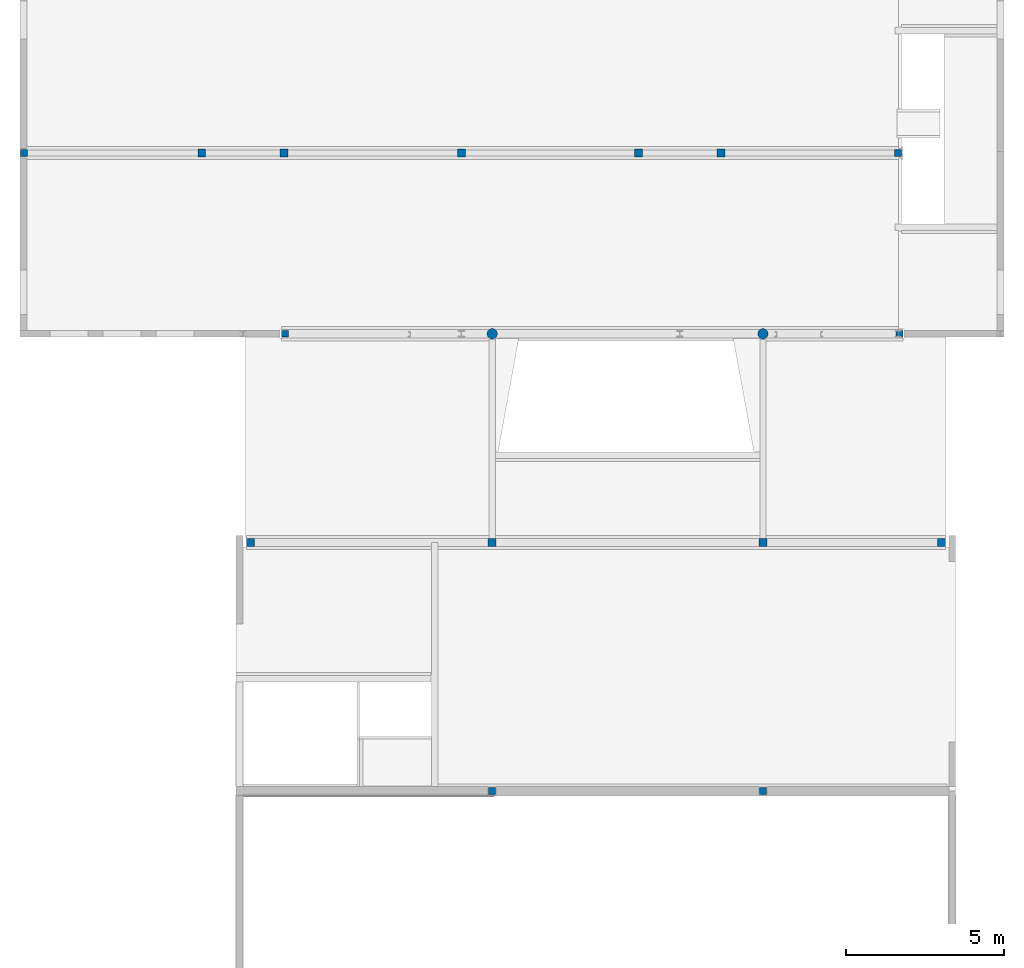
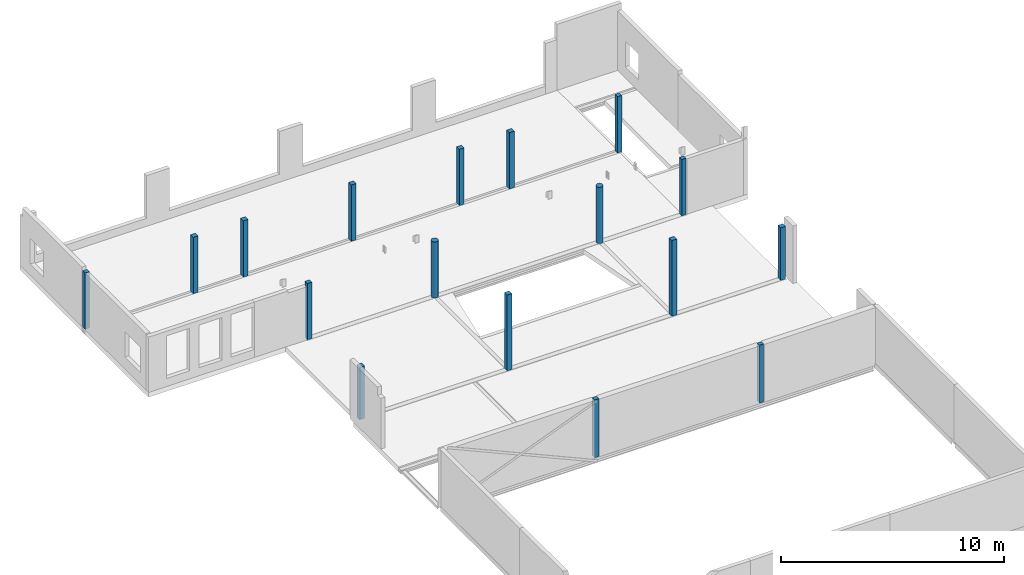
# One storey, part 1 of 6: 17 columns.
"""IFC2X3 building model written with IfcOpenShell, lengths in millimetres."""

import ifcopenshell
import ifcopenshell.guid

model = None  # the IFC model being written
_history = None  # IfcOwnerHistory: only IFC2X3 demands one
_inside = {}  # id of a spatial element -> (the spatial element, [elements in it])
_under = {}  # id of a project, library or spatial element -> (it, [spatial elements below it])
_declared = {}  # id of a project -> (the project, [libraries it declares])
_typed = {}  # id of a type object -> (the type object, [elements of that type])
_made_of = {}  # id of a material, layer set ... -> (it, [elements and type objects made of it])


def new_model(schema):
    """Start an empty IFC model of exactly this schema.

    Asked for "IFC4X3", IfcOpenShell would pick the latest addendum, in which some entities
    have other attributes; the version numbers below select the first issue.
    IFC2X3 requires an IfcOwnerHistory on every rooted entity: one is made here for all.
    """
    global model, _history
    if schema == "IFC4X3":
        model = ifcopenshell.file(schema_version=(4, 3, 0, 0))
    else:
        model = ifcopenshell.file(schema=schema)
    _inside.clear()
    _under.clear()
    _declared.clear()
    _typed.clear()
    _made_of.clear()
    _history = None
    if model.schema == "IFC2X3":
        org = make("IfcOrganization", Name="unknown")
        user = make(
            "IfcPersonAndOrganization",
            ThePerson=make("IfcPerson", FamilyName="unknown"),
            TheOrganization=org,
        )
        app = make(
            "IfcApplication",
            ApplicationDeveloper=org,
            Version="unknown",
            ApplicationFullName="unknown",
            ApplicationIdentifier="unknown",
        )
        _history = make(
            "IfcOwnerHistory",
            OwningUser=user,
            OwningApplication=app,
            ChangeAction="ADDED",
            CreationDate=0,
        )
    return model


def make(cls, **values):
    """One entity of the class cls with the attributes given. An attribute that is None is left unset."""
    return model.create_entity(
        cls, **{name: value for name, value in values.items() if value is not None}
    )


def entity(cls, *values):
    """Any entity or typed value of the class cls, its attributes in the order of the schema. None: left unset."""
    e = model.create_entity(cls)
    for i, value in enumerate(values):
        if value is not None:
            e[i] = value
    return e


def rooted(cls, **values):
    """An entity with a GlobalId (a new one), such as an element, a storey or a relation."""
    return make(cls, GlobalId=ifcopenshell.guid.new(), OwnerHistory=_history, **values)


def si_unit(unit_type, name, prefix=None):
    """IfcSIUnit, for example si_unit("LENGTHUNIT", "METRE", prefix="MILLI")."""
    return make("IfcSIUnit", UnitType=unit_type, Prefix=prefix, Name=name)


def converted_unit(unit_type, name, factor, base, dimensions=None, offset=None):
    """IfcConversionBasedUnit, such as the inch: factor (a typed value) times the base unit."""
    return make(
        "IfcConversionBasedUnit"
        if offset is None
        else "IfcConversionBasedUnitWithOffset",
        ConversionOffset=offset,
        Dimensions=None
        if dimensions is None
        else entity("IfcDimensionalExponents", *dimensions),
        UnitType=unit_type,
        Name=name,
        ConversionFactor=make(
            "IfcMeasureWithUnit", ValueComponent=factor, UnitComponent=base
        ),
    )


def derived_unit(unit_type, elements):
    """IfcDerivedUnit: a product of units, each with its exponent."""
    return make(
        "IfcDerivedUnit",
        Elements=[
            make("IfcDerivedUnitElement", Unit=unit, Exponent=power)
            for unit, power in elements
        ],
        UnitType=unit_type,
    )


def assignment(units):
    """IfcUnitAssignment: the units of a project."""
    return None if units is None else make("IfcUnitAssignment", Units=units)


def point(xyz):
    """IfcCartesianPoint."""
    return None if xyz is None else make("IfcCartesianPoint", Coordinates=xyz)


def direction(xyz):
    """IfcDirection."""
    return None if xyz is None else make("IfcDirection", DirectionRatios=xyz)


def frame(location, z_axis=None, x_axis=None):
    """IfcAxis2Placement3D, a coordinate frame: its origin and axes. An axis left out is left unset."""
    return make(
        "IfcAxis2Placement3D",
        Location=point(location),
        Axis=direction(z_axis),
        RefDirection=direction(x_axis),
    )


def frame_2d(location, x_axis=None):
    """IfcAxis2Placement2D, a coordinate frame in the plane: its origin and x axis."""
    return make(
        "IfcAxis2Placement2D", Location=point(location), RefDirection=direction(x_axis)
    )


def origin():
    """The frame at (0, 0, 0) with its axes left unset."""
    return frame((0.0, 0.0, 0.0))


def origin_2d_with_axis():
    """The frame at (0, 0) in the plane with the x axis (1, 0) written out."""
    return frame_2d((0.0, 0.0), x_axis=(1.0, 0.0))


def place(relative_to, where):
    """IfcLocalPlacement: puts the frame where relative to a parent placement (None: the world)."""
    return make(
        "IfcLocalPlacement", PlacementRelTo=relative_to, RelativePlacement=where
    )


def context(
    kind, dimensions, precision=None, world=None, true_north=None, identifier=None
):
    """IfcGeometricRepresentationContext, for example the 3D "Model" context."""
    return make(
        "IfcGeometricRepresentationContext",
        ContextIdentifier=identifier,
        ContextType=kind,
        CoordinateSpaceDimension=dimensions,
        Precision=precision,
        WorldCoordinateSystem=world,
        TrueNorth=true_north,
    )


def subcontext(parent, identifier, kind, view, scale=None):
    """IfcGeometricRepresentationSubContext, for example "Body" below "Model"."""
    return make(
        "IfcGeometricRepresentationSubContext",
        ContextIdentifier=identifier,
        ContextType=kind,
        ParentContext=parent,
        TargetScale=scale,
        TargetView=view,
    )


def project(units=None, contexts=None):
    """IfcProject with its units and contexts."""
    return rooted(
        "IfcProject",
        Name="project",
        RepresentationContexts=contexts,
        UnitsInContext=assignment(units),
    )


def spatial(cls, under=None, at=None, **own):
    """A site, building, storey or space (cls), placed at a placement, below another one or the project."""
    s = rooted(cls, ObjectPlacement=at, **own)
    if under is not None:
        _under.setdefault(under.id(), (under, []))[1].append(s)
    return s


def polyline(points):
    """IfcPolyline through the points."""
    return make("IfcPolyline", Points=[point(p) for p in points])


def profile(cls, at=None, kind="AREA", **sizes):
    """A parametric profile (cls). Its sizes go by their IFC names, for example OverallWidth=200.0."""
    return make(cls, ProfileType=kind, Position=at, **sizes)


def rectangle(**sizes):
    """IfcRectangleProfileDef."""
    return profile("IfcRectangleProfileDef", **sizes)


def circle(**sizes):
    """IfcCircleProfileDef."""
    return profile("IfcCircleProfileDef", **sizes)


def hollow_circle(**sizes):
    """IfcCircleHollowProfileDef."""
    return profile("IfcCircleHollowProfileDef", **sizes)


def outline(outer, holes=None, kind="AREA"):
    """IfcArbitraryClosedProfileDef: a profile drawn as a closed curve; with holes, ...WithVoids."""
    if holes is None:
        return make("IfcArbitraryClosedProfileDef", ProfileType=kind, OuterCurve=outer)
    return make(
        "IfcArbitraryProfileDefWithVoids",
        ProfileType=kind,
        OuterCurve=outer,
        InnerCurves=holes,
    )


def extrude(swept, where, along, depth):
    """IfcExtrudedAreaSolid: the profile swept, set in the frame where, extruded along a direction by depth."""
    return make(
        "IfcExtrudedAreaSolid",
        SweptArea=swept,
        Position=where,
        ExtrudedDirection=direction(along),
        Depth=depth,
    )


def shape(context_of_items, identifier, shape_type, items):
    """IfcShapeRepresentation: the items that make up one representation, for example the "Body"."""
    return make(
        "IfcShapeRepresentation",
        ContextOfItems=context_of_items,
        RepresentationIdentifier=identifier,
        RepresentationType=shape_type,
        Items=items,
    )


def source(mapping_origin, context_of_items, identifier, shape_type, items):
    """IfcRepresentationMap: a shape defined once, which mapped items show again and again."""
    return make(
        "IfcRepresentationMap",
        MappingOrigin=mapping_origin,
        MappedRepresentation=shape(context_of_items, identifier, shape_type, items),
    )


def transform(
    local_origin,
    x_axis=None,
    y_axis=None,
    z_axis=None,
    scale=None,
    scale2=None,
    scale3=None,
    uniform=True,
):
    """IfcCartesianTransformationOperator3D, or its non-uniform kind. x_axis, y_axis, z_axis: its Axis1, 2, 3."""
    if uniform:
        return make(
            "IfcCartesianTransformationOperator3D",
            Axis1=direction(x_axis),
            Axis2=direction(y_axis),
            LocalOrigin=point(local_origin),
            Scale=scale,
            Axis3=direction(z_axis),
        )
    return make(
        "IfcCartesianTransformationOperator3DnonUniform",
        Axis1=direction(x_axis),
        Axis2=direction(y_axis),
        LocalOrigin=point(local_origin),
        Scale=scale,
        Axis3=direction(z_axis),
        Scale2=scale2,
        Scale3=scale3,
    )


def mapped(mapping_source, mapping_target):
    """IfcMappedItem: shows the shape of a source again, moved by a transform."""
    return make(
        "IfcMappedItem", MappingSource=mapping_source, MappingTarget=mapping_target
    )


def material(Name=None, Category=None):
    """IfcMaterial."""
    return make("IfcMaterial", Name=Name, Category=Category)


def material_list(materials):
    """IfcMaterialList."""
    return make("IfcMaterialList", Materials=materials)


def made_of(thing, what):
    """Note that an element or type object is made of a material, layer set ...; save() writes the relation."""
    if what is not None:
        _made_of.setdefault(what.id(), (what, []))[1].append(thing)
    return thing


def type_object(cls, material=None, **own):
    """A type object (cls), such as IfcWallType, which elements share."""
    return made_of(rooted(cls, **own), material)


def type_shapes(of_type, sources):
    """Give a type object the sources (RepresentationMaps) that its elements show as mapped items."""
    of_type.RepresentationMaps = sources


def element(
    cls,
    number,
    at=None,
    inside=None,
    cuts=None,
    type_object=None,
    material=None,
    context=None,
    identifier="Body",
    shape_type=None,
    held_by="IfcProductDefinitionShape",
    body=None,
    shapes=None,
    **own,
):
    """One element of the class cls, such as IfcWall. Its Tag is "e" and its number.

    at: its placement. inside: the storey or other place that contains it. cuts: it is an
    opening in that element (IfcRelVoidsElement). A single representation is given by context,
    identifier, shape_type and body (its items); several are given by shapes. held_by: the class
    of the entity that holds the representations. save() writes the other relations.
    """
    e = rooted(cls, Tag="e%d" % number, ObjectPlacement=at, **own)
    if body is not None:
        shapes = [shape(context, identifier, shape_type, body)]
    if shapes is not None:
        e.Representation = make(held_by, Representations=shapes)
    if inside is not None:
        _inside.setdefault(inside.id(), (inside, []))[1].append(e)
    if cuts is not None:
        rooted(
            "IfcRelVoidsElement", RelatingBuildingElement=cuts, RelatedOpeningElement=e
        )
    if type_object is not None:
        _typed.setdefault(type_object.id(), (type_object, []))[1].append(e)
    return made_of(e, material)


def aggregate(whole, parts):
    """IfcRelAggregates: a whole, such as a stair, and the parts it consists of."""
    return rooted("IfcRelAggregates", RelatingObject=whole, RelatedObjects=parts)


def save(model, path):
    """Write the relations noted so far, then the file.

    IfcRelAggregates (storeys below a building ...), IfcRelContainedInSpatialStructure (elements
    in a storey), IfcRelDefinesByType, IfcRelAssociatesMaterial and IfcRelDeclares: one each for
    every whole, place, type object, material and project.
    """
    for whole, parts in _under.values():
        aggregate(whole, parts)
    for where, things in _inside.values():
        rooted(
            "IfcRelContainedInSpatialStructure",
            RelatedElements=things,
            RelatingStructure=where,
        )
    for kind, things in _typed.values():
        rooted("IfcRelDefinesByType", RelatedObjects=things, RelatingType=kind)
    for what, things in _made_of.values():
        rooted("IfcRelAssociatesMaterial", RelatedObjects=things, RelatingMaterial=what)
    for by, libraries in _declared.values():
        rooted("IfcRelDeclares", RelatingContext=by, RelatedDefinitions=libraries)
    model.write(path)


model = new_model("IFC2X3")

# Units and contexts
model_context = context("Model", 3, precision=0.01, world=origin(), true_north=direction((6.123031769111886e-17, 1.0)))
body_context = subcontext(model_context, "Body", "Model", "MODEL_VIEW")
ifc_project = project(units=[si_unit("LENGTHUNIT", "METRE", prefix="MILLI"), si_unit("AREAUNIT", "SQUARE_METRE", prefix="MILLI"), si_unit("VOLUMEUNIT", "CUBIC_METRE"), converted_unit("PLANEANGLEUNIT", "DEGREE", entity("IfcPlaneAngleMeasure", 0.017453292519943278), si_unit("PLANEANGLEUNIT", "RADIAN"), dimensions=[0, 0, 0, 0, 0, 0, 0]), si_unit("MASSUNIT", "GRAM", prefix="KILO"), derived_unit("MASSDENSITYUNIT", [(si_unit("MASSUNIT", "GRAM", prefix="KILO"), 1), (si_unit("LENGTHUNIT", "METRE"), -3)]), derived_unit("IONCONCENTRATIONUNIT", [(si_unit("MASSUNIT", "GRAM", prefix="KILO"), 1), (si_unit("LENGTHUNIT", "METRE"), -3)]), derived_unit("MOMENTOFINERTIAUNIT", [(si_unit("LENGTHUNIT", "METRE"), 4)]), si_unit("TIMEUNIT", "SECOND"), si_unit("FREQUENCYUNIT", "HERTZ"), si_unit("THERMODYNAMICTEMPERATUREUNIT", "DEGREE_CELSIUS"), derived_unit("THERMALTRANSMITTANCEUNIT", [(si_unit("MASSUNIT", "GRAM", prefix="KILO"), 1), (si_unit("THERMODYNAMICTEMPERATUREUNIT", "KELVIN"), -1), (si_unit("TIMEUNIT", "SECOND"), -3)]), derived_unit("THERMALCONDUCTANCEUNIT", [(si_unit("MASSUNIT", "GRAM", prefix="KILO"), 1), (si_unit("THERMODYNAMICTEMPERATUREUNIT", "KELVIN"), -1), (si_unit("TIMEUNIT", "SECOND"), -3), (si_unit("LENGTHUNIT", "METRE"), 1)]), derived_unit("VOLUMETRICFLOWRATEUNIT", [(si_unit("LENGTHUNIT", "METRE", prefix="DECI"), 3), (si_unit("TIMEUNIT", "SECOND"), -1)]), derived_unit("MASSFLOWRATEUNIT", [(si_unit("MASSUNIT", "GRAM", prefix="KILO"), 1), (si_unit("TIMEUNIT", "SECOND"), -1)]), derived_unit("ROTATIONALFREQUENCYUNIT", [(si_unit("TIMEUNIT", "SECOND"), -1)]), si_unit("ELECTRICCURRENTUNIT", "AMPERE"), si_unit("ELECTRICVOLTAGEUNIT", "VOLT"), si_unit("POWERUNIT", "WATT"), si_unit("FORCEUNIT", "NEWTON", prefix="KILO"), si_unit("ILLUMINANCEUNIT", "LUX"), si_unit("LUMINOUSFLUXUNIT", "LUMEN"), si_unit("LUMINOUSINTENSITYUNIT", "CANDELA"), si_unit("ENERGYUNIT", "JOULE"), derived_unit("USERDEFINED", [(si_unit("MASSUNIT", "GRAM", prefix="KILO"), -1), (si_unit("LENGTHUNIT", "METRE"), -2), (si_unit("TIMEUNIT", "SECOND"), 3), (si_unit("LUMINOUSFLUXUNIT", "LUMEN"), 1)]), derived_unit("USERDEFINED", [(si_unit("MASSUNIT", "GRAM", prefix="KILO"), 1), (si_unit("TIMEUNIT", "SECOND"), -3), (si_unit("LENGTHUNIT", "METRE"), 3), (si_unit("ELECTRICCURRENTUNIT", "AMPERE"), -2)]), derived_unit("SOUNDPOWERUNIT", [(si_unit("MASSUNIT", "GRAM", prefix="KILO"), 1), (si_unit("TIMEUNIT", "SECOND"), -3), (si_unit("LENGTHUNIT", "METRE"), 2)]), derived_unit("SOUNDPRESSUREUNIT", [(si_unit("MASSUNIT", "GRAM", prefix="KILO"), 1), (si_unit("LENGTHUNIT", "METRE"), -1), (si_unit("TIMEUNIT", "SECOND"), -2)]), derived_unit("LINEARVELOCITYUNIT", [(si_unit("LENGTHUNIT", "METRE"), 1), (si_unit("TIMEUNIT", "SECOND"), -1)]), si_unit("PRESSUREUNIT", "PASCAL"), derived_unit("USERDEFINED", [(si_unit("MASSUNIT", "GRAM", prefix="KILO"), 1), (si_unit("LENGTHUNIT", "METRE"), -2), (si_unit("TIMEUNIT", "SECOND"), -2)]), derived_unit("LINEARFORCEUNIT", [(si_unit("MASSUNIT", "GRAM", prefix="KILO"), 1), (si_unit("TIMEUNIT", "SECOND"), -2)]), derived_unit("PLANARFORCEUNIT", [(si_unit("MASSUNIT", "GRAM", prefix="KILO"), 1), (si_unit("LENGTHUNIT", "METRE"), -1), (si_unit("TIMEUNIT", "SECOND"), -2)]), derived_unit("SPECIFICHEATCAPACITYUNIT", [(si_unit("THERMODYNAMICTEMPERATUREUNIT", "KELVIN"), -1), (si_unit("LENGTHUNIT", "METRE"), 2), (si_unit("TIMEUNIT", "SECOND"), -2)]), derived_unit("HEATFLUXDENSITYUNIT", [(si_unit("MASSUNIT", "GRAM", prefix="KILO"), 1), (si_unit("TIMEUNIT", "SECOND"), -3)]), derived_unit("HEATINGVALUEUNIT", [(si_unit("LENGTHUNIT", "METRE"), 2), (si_unit("TIMEUNIT", "SECOND"), -2)]), derived_unit("VAPORPERMEABILITYUNIT", [(si_unit("LENGTHUNIT", "METRE"), -1), (si_unit("TIMEUNIT", "SECOND"), 1)]), derived_unit("DYNAMICVISCOSITYUNIT", [(si_unit("MASSUNIT", "GRAM", prefix="KILO"), 1), (si_unit("TIMEUNIT", "SECOND"), -1), (si_unit("LENGTHUNIT", "METRE"), -1)]), derived_unit("THERMALEXPANSIONCOEFFICIENTUNIT", [(si_unit("THERMODYNAMICTEMPERATUREUNIT", "KELVIN"), -1)]), derived_unit("MODULUSOFELASTICITYUNIT", [(si_unit("MASSUNIT", "GRAM", prefix="KILO"), 1), (si_unit("LENGTHUNIT", "METRE"), -1), (si_unit("TIMEUNIT", "SECOND"), -2)]), derived_unit("ISOTHERMALMOISTURECAPACITYUNIT", [(si_unit("MASSUNIT", "GRAM", prefix="KILO"), -1), (si_unit("LENGTHUNIT", "METRE"), 3)]), derived_unit("MOISTUREDIFFUSIVITYUNIT", [(si_unit("TIMEUNIT", "SECOND"), -1), (si_unit("LENGTHUNIT", "METRE"), 2)]), derived_unit("MASSPERLENGTHUNIT", [(si_unit("MASSUNIT", "GRAM", prefix="KILO"), 1), (si_unit("LENGTHUNIT", "METRE"), -1)]), derived_unit("THERMALRESISTANCEUNIT", [(si_unit("MASSUNIT", "GRAM", prefix="KILO"), -1), (si_unit("TIMEUNIT", "SECOND"), 3), (si_unit("THERMODYNAMICTEMPERATUREUNIT", "KELVIN"), 1)]), derived_unit("ACCELERATIONUNIT", [(si_unit("LENGTHUNIT", "METRE"), 1), (si_unit("TIMEUNIT", "SECOND"), -2)]), derived_unit("ANGULARVELOCITYUNIT", [(si_unit("TIMEUNIT", "SECOND"), -1), (si_unit("PLANEANGLEUNIT", "RADIAN"), 1)]), derived_unit("LINEARSTIFFNESSUNIT", [(si_unit("MASSUNIT", "GRAM", prefix="KILO"), 1), (si_unit("TIMEUNIT", "SECOND"), -2)]), derived_unit("WARPINGCONSTANTUNIT", [(si_unit("LENGTHUNIT", "METRE"), 6)]), derived_unit("LINEARMOMENTUNIT", [(si_unit("MASSUNIT", "GRAM", prefix="KILO"), 1), (si_unit("LENGTHUNIT", "METRE"), 1), (si_unit("TIMEUNIT", "SECOND"), -2)]), derived_unit("TORQUEUNIT", [(si_unit("MASSUNIT", "GRAM", prefix="KILO"), 1), (si_unit("LENGTHUNIT", "METRE"), 2), (si_unit("TIMEUNIT", "SECOND"), -2)])], contexts=[model_context])

# Site, building, storey
site_placement = place(None, origin())
site = spatial("IfcSite", under=ifc_project, at=site_placement, Name="Default", CompositionType="ELEMENT")
building_placement = place(site_placement, origin())
building = spatial("IfcBuilding", under=site, at=building_placement, CompositionType="ELEMENT")
storey_placement = place(building_placement, frame((0.0, 0.0, 7530.0)))
storey = spatial("IfcBuildingStorey", under=building, at=storey_placement, Name="V2 2e verd. (bk ruwe vloer)", CompositionType="ELEMENT", Elevation=7529.999999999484)

# Columns
ifc_material_1 = material(Name="Concrete - Cast-in-Place - C30/37")
ifc_material_2 = material(Name="Metal - Steel - S275 J0H (standaard-kokers/buizen)")
ifc_material_list_1 = material_list([ifc_material_1, ifc_material_2])
column_type_1 = type_object("IfcColumnType", Name="btk_staal - Koker + beton:K250x250x8.0", PredefinedType="COLUMN", material=ifc_material_list_1)
shared_shape_1 = source(origin(), body_context, "Body", "SweptSolid", [
    extrude(rectangle(XDim=234.00000000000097, YDim=233.99999999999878, at=frame_2d((-1.0871303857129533e-12, 0.0), x_axis=(1.0, 0.0))), frame((14699.863108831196, 25344.605013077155, 7540.0), z_axis=(0.0, 0.0, 1.0), x_axis=(-1.0, 0.0, 0.0)), (0.0, 0.0, 1.0), 4160.00000000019),
    extrude(outline(polyline([(-125.0, -125.0), (125.0, -125.0), (125.0, 125.0), (-125.0, 125.0), (-125.0, -125.0)]), holes=[polyline([(-117.0, -117.0), (-117.0, 117.0), (117.0, 117.0), (117.0, -117.0), (-117.0, -117.0)])]), frame((14699.863108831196, 25344.605013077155, 7540.0), z_axis=(0.0, 0.0, 1.0), x_axis=(-1.0, 0.0, 0.0)), (0.0, 0.0, 1.0), 4160.00000000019),
])
type_shapes(column_type_1, [shared_shape_1])
column_1_placement = place(storey_placement, frame((0.0, 0.0, -7530.0)))
element("IfcColumn", 1, at=column_1_placement, inside=storey, type_object=column_type_1, material=ifc_material_list_1, Name="btk_staal - Koker + beton:K250x250x8.0", ObjectType="btk_staal - Koker + beton:K250x250x8.0", context=body_context, shape_type="MappedRepresentation", body=[
    mapped(shared_shape_1, transform((0.0, 0.0, 0.0), scale=1.0)),
])
column_type_2 = type_object("IfcColumnType", Name="btk_staal - Koker + beton:K250x250x8.0", PredefinedType="COLUMN", material=ifc_material_list_1)
shared_shape_2 = source(origin(), body_context, "Body", "SweptSolid", [
    extrude(rectangle(XDim=233.99999999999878, YDim=233.99999999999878, at=origin_2d_with_axis()), frame((23249.986607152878, 25344.605013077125, 7540.0), z_axis=(0.0, 0.0, 1.0), x_axis=(-1.0, 0.0, 0.0)), (0.0, 0.0, 1.0), 4160.00000000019),
    extrude(outline(polyline([(-125.0, -125.0), (125.0, -125.0), (125.0, 125.0), (-125.0, 125.0), (-125.0, -125.0)]), holes=[polyline([(-117.0, -117.0), (-117.0, 117.0), (117.0, 117.0), (117.0, -117.0), (-117.0, -117.0)])]), frame((23249.98660715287, 25344.605013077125, 7540.0), z_axis=(0.0, 0.0, 1.0), x_axis=(-1.0, 0.0, 0.0)), (0.0, 0.0, 1.0), 4160.00000000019),
])
type_shapes(column_type_2, [shared_shape_2])
column_2_placement = place(storey_placement, frame((0.0, 0.0, -7530.0)))
element("IfcColumn", 2, at=column_2_placement, inside=storey, type_object=column_type_2, material=ifc_material_list_1, Name="btk_staal - Koker + beton:K250x250x8.0", ObjectType="btk_staal - Koker + beton:K250x250x8.0", context=body_context, shape_type="MappedRepresentation", body=[
    mapped(shared_shape_2, transform((0.0, 0.0, 0.0), scale=1.0)),
])
column_type_3 = type_object("IfcColumnType", Name="btk_staal - Koker + beton:K250x250x8.0", PredefinedType="COLUMN", material=ifc_material_list_1)
shared_shape_3 = source(origin(), body_context, "Body", "SweptSolid", [
    extrude(rectangle(XDim=233.99999999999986, YDim=233.99999999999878, at=frame_2d((5.400124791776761e-13, 0.0), x_axis=(1.0, 0.0))), frame((7061.0243593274, 25344.605013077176, 7540.0), z_axis=(0.0, 0.0, 1.0), x_axis=(-1.0, 0.0, 0.0)), (0.0, 0.0, 1.0), 2874.9999999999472),
    extrude(outline(polyline([(-125.0, -125.0), (125.0, -125.0), (125.0, 125.0), (-125.0, 125.0), (-125.0, -125.0)]), holes=[polyline([(-117.0, -117.0), (-117.0, 117.0), (117.0, 117.0), (117.0, -117.0), (-117.0, -117.0)])]), frame((7061.0243593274, 25344.605013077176, 7540.0), z_axis=(0.0, 0.0, 1.0), x_axis=(-1.0, 0.0, 0.0)), (0.0, 0.0, 1.0), 2874.9999999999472),
])
type_shapes(column_type_3, [shared_shape_3])
column_3_placement = place(storey_placement, frame((0.0, 0.0, -7530.0)))
element("IfcColumn", 3, at=column_3_placement, inside=storey, type_object=column_type_3, material=ifc_material_list_1, Name="btk_staal - Koker + beton:K250x250x8.0", ObjectType="btk_staal - Koker + beton:K250x250x8.0", context=body_context, shape_type="MappedRepresentation", body=[
    mapped(shared_shape_3, transform((0.0, 0.0, 0.0), scale=1.0)),
])
column_type_4 = type_object("IfcColumnType", Name="btk_staal - Koker + beton:K250x250x8.0", PredefinedType="COLUMN", material=ifc_material_list_1)
shared_shape_4 = source(origin(), body_context, "Body", "SweptSolid", [
    extrude(rectangle(XDim=233.99999999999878, YDim=233.99999999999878, at=origin_2d_with_axis()), frame((28888.979529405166, 25344.605013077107, 7540.0), z_axis=(0.0, 0.0, 1.0), x_axis=(-1.0, 0.0, 0.0)), (0.0, 0.0, 1.0), 2874.9999999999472),
    extrude(outline(polyline([(-125.0, -125.0), (125.0, -125.0), (125.0, 125.0), (-125.0, 125.0), (-125.0, -125.0)]), holes=[polyline([(-117.0, -117.0), (-117.0, 117.0), (117.0, 117.0), (117.0, -117.0), (-117.0, -117.0)])]), frame((28888.979529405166, 25344.605013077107, 7540.0), z_axis=(0.0, 0.0, 1.0), x_axis=(-1.0, 0.0, 0.0)), (0.0, 0.0, 1.0), 2874.9999999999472),
])
type_shapes(column_type_4, [shared_shape_4])
column_4_placement = place(storey_placement, frame((0.0, 0.0, -7530.0)))
element("IfcColumn", 4, at=column_4_placement, inside=storey, type_object=column_type_4, material=ifc_material_list_1, Name="btk_staal - Koker + beton:K250x250x8.0", ObjectType="btk_staal - Koker + beton:K250x250x8.0", context=body_context, shape_type="MappedRepresentation", body=[
    mapped(shared_shape_4, transform((0.0, 0.0, 0.0), scale=1.0)),
])
ifc_material_list_2 = material_list([ifc_material_2, ifc_material_1])
column_type_5 = type_object("IfcColumnType", Name="btk_staal - Koker + beton:K250x250x8.0", PredefinedType="COLUMN", material=ifc_material_list_2)
shared_shape_5 = source(origin(), body_context, "Body", "SweptSolid", [
    extrude(outline(polyline([(-125.0, -125.0), (125.0, -125.0), (125.0, 125.0), (-125.0, 125.0), (-125.0, -125.0)]), holes=[polyline([(-117.0, -117.0), (-117.0, 117.0), (117.0, 117.0), (117.0, -117.0), (-117.0, -117.0)])]), frame((5525.000781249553, 37644.573205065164, 7530.0), z_axis=(0.0, 0.0, 1.0), x_axis=(-1.0, 0.0, 0.0)), (0.0, 0.0, 1.0), 3084.999999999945),
    extrude(rectangle(XDim=233.99999999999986, YDim=233.99999999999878, at=frame_2d((5.400124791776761e-13, 0.0), x_axis=(1.0, 0.0))), frame((5525.000781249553, 37644.573205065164, 7530.0), z_axis=(0.0, 0.0, 1.0), x_axis=(-1.0, 0.0, 0.0)), (0.0, 0.0, 1.0), 3084.999999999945),
])
type_shapes(column_type_5, [shared_shape_5])
column_5_placement = place(storey_placement, frame((0.0, 0.0, -7530.0)))
element("IfcColumn", 5, at=column_5_placement, inside=storey, type_object=column_type_5, material=ifc_material_list_2, Name="btk_staal - Koker + beton:K250x250x8.0", ObjectType="btk_staal - Koker + beton:K250x250x8.0", context=body_context, shape_type="MappedRepresentation", body=[
    mapped(shared_shape_5, transform((0.0, 0.0, 0.0), scale=1.0)),
])
column_type_6 = type_object("IfcColumnType", Name="btk_staal - Koker + beton:K250x250x8.0", PredefinedType="COLUMN", material=ifc_material_list_2)
shared_shape_6 = source(origin(), body_context, "Body", "SweptSolid", [
    extrude(outline(polyline([(-125.0, -125.0), (125.0, -125.0), (125.0, 125.0), (-125.0, 125.0), (-125.0, -125.0)]), holes=[polyline([(-117.0, -117.0), (-117.0, 117.0), (117.0, 117.0), (117.0, -117.0), (-117.0, -117.0)])]), frame((8124.985770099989, 37644.573205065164, 7530.0), z_axis=(0.0, 0.0, 1.0), x_axis=(-1.0, 0.0, 0.0)), (0.0, 0.0, 1.0), 3084.999999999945),
    extrude(rectangle(XDim=233.99999999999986, YDim=233.99999999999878, at=frame_2d((5.400124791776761e-13, 0.0), x_axis=(1.0, 0.0))), frame((8124.985770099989, 37644.57320506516, 7530.0), z_axis=(0.0, 0.0, 1.0), x_axis=(-1.0, 0.0, 0.0)), (0.0, 0.0, 1.0), 3084.999999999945),
])
type_shapes(column_type_6, [shared_shape_6])
column_6_placement = place(storey_placement, frame((0.0, 0.0, -7530.0)))
element("IfcColumn", 6, at=column_6_placement, inside=storey, type_object=column_type_6, material=ifc_material_list_2, Name="btk_staal - Koker + beton:K250x250x8.0", ObjectType="btk_staal - Koker + beton:K250x250x8.0", context=body_context, shape_type="MappedRepresentation", body=[
    mapped(shared_shape_6, transform((0.0, 0.0, 0.0), scale=1.0)),
])
column_type_7 = type_object("IfcColumnType", Name="btk_staal - Koker + beton:K250x250x8.0", PredefinedType="COLUMN", material=ifc_material_list_1)
shared_shape_7 = source(origin(), body_context, "Body", "SweptSolid", [
    extrude(rectangle(XDim=234.00000000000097, YDim=233.99999999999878, at=frame_2d((-1.0871303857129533e-12, 0.0), x_axis=(1.0, 0.0))), frame((19324.984654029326, 37644.57320506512, 7530.0), z_axis=(0.0, 0.0, 1.0), x_axis=(-1.0, 0.0, 0.0)), (0.0, 0.0, 1.0), 3084.999999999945),
    extrude(outline(polyline([(-125.0, -125.0), (125.0, -125.0), (125.0, 125.0), (-125.0, 125.0), (-125.0, -125.0)]), holes=[polyline([(-117.0, -117.0), (-117.0, 117.0), (117.0, 117.0), (117.0, -117.0), (-117.0, -117.0)])]), frame((19324.984654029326, 37644.57320506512, 7530.0), z_axis=(0.0, 0.0, 1.0), x_axis=(-1.0, 0.0, 0.0)), (0.0, 0.0, 1.0), 3084.999999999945),
])
type_shapes(column_type_7, [shared_shape_7])
column_7_placement = place(storey_placement, frame((0.0, 0.0, -7530.0)))
element("IfcColumn", 7, at=column_7_placement, inside=storey, type_object=column_type_7, material=ifc_material_list_1, Name="btk_staal - Koker + beton:K250x250x8.0", ObjectType="btk_staal - Koker + beton:K250x250x8.0", context=body_context, shape_type="MappedRepresentation", body=[
    mapped(shared_shape_7, transform((0.0, 0.0, 0.0), scale=1.0)),
])
column_type_8 = type_object("IfcColumnType", Name="btk_staal - Koker + beton:K250x250x8.0", PredefinedType="COLUMN", material=ifc_material_list_1)
shared_shape_8 = source(origin(), body_context, "Body", "SweptSolid", [
    extrude(rectangle(XDim=233.99999999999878, YDim=233.99999999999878, at=origin_2d_with_axis()), frame((21924.984654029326, 37644.573205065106, 7530.0), z_axis=(0.0, 0.0, 1.0), x_axis=(-1.0, 0.0, 0.0)), (0.0, 0.0, 1.0), 3084.999999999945),
    extrude(outline(polyline([(-125.0, -125.0), (125.0, -125.0), (125.0, 125.0), (-125.0, 125.0), (-125.0, -125.0)]), holes=[polyline([(-117.0, -117.0), (-117.0, 117.0), (117.0, 117.0), (117.0, -117.0), (-117.0, -117.0)])]), frame((21924.984654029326, 37644.573205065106, 7530.0), z_axis=(0.0, 0.0, 1.0), x_axis=(-1.0, 0.0, 0.0)), (0.0, 0.0, 1.0), 3084.999999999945),
])
type_shapes(column_type_8, [shared_shape_8])
column_8_placement = place(storey_placement, frame((0.0, 0.0, -7530.0)))
element("IfcColumn", 8, at=column_8_placement, inside=storey, type_object=column_type_8, material=ifc_material_list_1, Name="btk_staal - Koker + beton:K250x250x8.0", ObjectType="btk_staal - Koker + beton:K250x250x8.0", context=body_context, shape_type="MappedRepresentation", body=[
    mapped(shared_shape_8, transform((0.0, 0.0, 0.0), scale=1.0)),
])
column_type_9 = type_object("IfcColumnType", Name="btk_staal - Koker + beton:K220x220x8", PredefinedType="COLUMN", material=ifc_material_list_2)
shared_shape_9 = source(origin(), body_context, "Body", "SweptSolid", [
    extrude(outline(polyline([(-110.0, -110.0), (110.0, -110.0), (110.0, 110.0), (-110.0, 110.0), (-110.0, -110.0)]), holes=[polyline([(-102.0, -102.0), (-102.0, 102.0), (102.0, 102.0), (102.0, -102.0), (-102.0, -102.0)])]), frame((-89.0, 37644.57320506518, 7530.0), z_axis=(0.0, 0.0, 1.0), x_axis=(-1.0, 0.0, 0.0)), (0.0, 0.0, 1.0), 3084.999999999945),
    extrude(rectangle(XDim=203.9999999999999, YDim=204.00000000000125, at=frame_2d((-1.4210854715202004e-14, -2.1671553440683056e-12), x_axis=(1.0, 0.0))), frame((-89.0, 37644.57320506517, 7530.0), z_axis=(0.0, 0.0, 1.0), x_axis=(-1.0, 0.0, 0.0)), (0.0, 0.0, 1.0), 3084.999999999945),
])
type_shapes(column_type_9, [shared_shape_9])
column_9_placement = place(storey_placement, frame((0.0, 0.0, -7530.0)))
element("IfcColumn", 9, at=column_9_placement, inside=storey, type_object=column_type_9, material=ifc_material_list_2, Name="btk_staal - Koker + beton:K220x220x8", ObjectType="btk_staal - Koker + beton:K220x220x8", context=body_context, shape_type="MappedRepresentation", body=[
    mapped(shared_shape_9, transform((0.0, 0.0, 0.0), scale=1.0)),
])
column_type_10 = type_object("IfcColumnType", Name="btk_staal - Koker + beton:K220x220x8", PredefinedType="COLUMN", material=ifc_material_list_1)
shared_shape_10 = source(origin(), body_context, "Body", "SweptSolid", [
    extrude(rectangle(XDim=204.00000000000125, YDim=204.00000000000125, at=frame_2d((2.1671553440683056e-12, 2.1671553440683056e-12), x_axis=(1.0, 0.0))), frame((27521.979520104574, 37644.573205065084, 7530.0), z_axis=(0.0, 0.0, 1.0), x_axis=(-1.0, 0.0, 0.0)), (0.0, 0.0, 1.0), 3084.999999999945),
    extrude(outline(polyline([(-110.0, -110.0), (110.0, -110.0), (110.0, 110.0), (-110.0, 110.0), (-110.0, -110.0)]), holes=[polyline([(-102.0, -102.0), (-102.0, 102.0), (102.0, 102.0), (102.0, -102.0), (-102.0, -102.0)])]), frame((27521.979520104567, 37644.573205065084, 7530.0), z_axis=(0.0, 0.0, 1.0), x_axis=(-1.0, 0.0, 0.0)), (0.0, 0.0, 1.0), 3084.999999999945),
])
type_shapes(column_type_10, [shared_shape_10])
column_10_placement = place(storey_placement, frame((0.0, 0.0, -7530.0)))
element("IfcColumn", 10, at=column_10_placement, inside=storey, type_object=column_type_10, material=ifc_material_list_1, Name="btk_staal - Koker + beton:K220x220x8", ObjectType="btk_staal - Koker + beton:K220x220x8", context=body_context, shape_type="MappedRepresentation", body=[
    mapped(shared_shape_10, transform((0.0, 0.0, 0.0), scale=1.0)),
])
column_type_11 = type_object("IfcColumnType", Name="btk_staal - Koker + beton:K220x220x8", PredefinedType="COLUMN", material=ifc_material_list_1)
shared_shape_11 = source(origin(), body_context, "Body", "SweptSolid", [
    extrude(rectangle(XDim=204.00000000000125, YDim=203.9999999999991, at=frame_2d((-2.1671553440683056e-12, 1.0871303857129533e-12), x_axis=(1.0, 0.0))), frame((23249.986607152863, 17494.6050130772, 7530.0), z_axis=(0.0, 0.0, 1.0), x_axis=(-1.0, 0.0, 0.0)), (0.0, 0.0, 1.0), 3167.9531249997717),
    extrude(outline(polyline([(-110.0, -110.0), (110.0, -110.0), (110.0, 110.0), (-110.0, 110.0), (-110.0, -110.0)]), holes=[polyline([(-102.0, -102.0), (-102.0, 102.0), (102.0, 102.0), (102.0, -102.0), (-102.0, -102.0)])]), frame((23249.986607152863, 17494.6050130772, 7530.0), z_axis=(0.0, 0.0, 1.0), x_axis=(-1.0, 0.0, 0.0)), (0.0, 0.0, 1.0), 3167.9531249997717),
])
type_shapes(column_type_11, [shared_shape_11])
column_11_placement = place(storey_placement, frame((0.0, 0.0, -7530.0)))
element("IfcColumn", 11, at=column_11_placement, inside=storey, type_object=column_type_11, material=ifc_material_list_1, Name="btk_staal - Koker + beton:K220x220x8", ObjectType="btk_staal - Koker + beton:K220x220x8", context=body_context, shape_type="MappedRepresentation", body=[
    mapped(shared_shape_11, transform((0.0, 0.0, 0.0), scale=1.0)),
])
column_type_12 = type_object("IfcColumnType", Name="btk_staal - Koker + beton:K220x220x8", PredefinedType="COLUMN", material=ifc_material_list_1)
shared_shape_12 = source(origin(), body_context, "Body", "SweptSolid", [
    extrude(rectangle(XDim=203.9999999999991, YDim=203.9999999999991, at=frame_2d((1.0871303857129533e-12, -1.0871303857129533e-12), x_axis=(1.0, 0.0))), frame((14699.863108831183, 17494.60501307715, 7530.0), z_axis=(0.0, 0.0, 1.0), x_axis=(-1.0, 0.0, 0.0)), (0.0, 0.0, 1.0), 3167.9531249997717),
    extrude(outline(polyline([(-110.0, -110.0), (110.0, -110.0), (110.0, 110.0), (-110.0, 110.0), (-110.0, -110.0)]), holes=[polyline([(-102.0, -102.0), (-102.0, 102.0), (102.0, 102.0), (102.0, -102.0), (-102.0, -102.0)])]), frame((14699.863108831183, 17494.60501307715, 7530.0), z_axis=(0.0, 0.0, 1.0), x_axis=(-1.0, 0.0, 0.0)), (0.0, 0.0, 1.0), 3167.9531249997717),
])
type_shapes(column_type_12, [shared_shape_12])
column_12_placement = place(storey_placement, frame((0.0, 0.0, -7530.0)))
element("IfcColumn", 12, at=column_12_placement, inside=storey, type_object=column_type_12, material=ifc_material_list_1, Name="btk_staal - Koker + beton:K220x220x8", ObjectType="btk_staal - Koker + beton:K220x220x8", context=body_context, shape_type="MappedRepresentation", body=[
    mapped(shared_shape_12, transform((0.0, 0.0, 0.0), scale=1.0)),
])
ifc_material_3 = material(Name="Metal - Steel - S235 JRG2 (standaard)")
ifc_material_list_3 = material_list([ifc_material_3, ifc_material_1])
column_type_13 = type_object("IfcColumnType", Name="btk_staal - Buis + beton:Ø323.9x10", PredefinedType="COLUMN", material=ifc_material_list_3)
shared_shape_13 = source(origin(), body_context, "Body", "SweptSolid", [
    extrude(hollow_circle(Radius=161.94999999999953, WallThickness=9.999999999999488, at=origin_2d_with_axis()), frame((14699.863108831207, 31937.573205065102, 7530.0)), (0.0, 0.0, 1.0), 3084.9999999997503),
    extrude(circle(Radius=151.95000000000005, at=origin_2d_with_axis()), frame((14699.863108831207, 31937.573205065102, 7530.0)), (0.0, 0.0, 1.0), 3084.9999999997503),
])
type_shapes(column_type_13, [shared_shape_13])
column_13_placement = place(storey_placement, frame((0.0, 0.0, -7530.0)))
element("IfcColumn", 13, at=column_13_placement, inside=storey, type_object=column_type_13, material=ifc_material_list_3, Name="btk_staal - Buis + beton:Ø323.9x10", ObjectType="btk_staal - Buis + beton:Ø323.9x10", context=body_context, shape_type="MappedRepresentation", body=[
    mapped(shared_shape_13, transform((0.0, 0.0, 0.0), scale=1.0)),
])
column_type_14 = type_object("IfcColumnType", Name="btk_staal - Buis + beton:Ø323.9x10", PredefinedType="COLUMN", material=ifc_material_list_3)
shared_shape_14 = source(origin(), body_context, "Body", "SweptSolid", [
    extrude(hollow_circle(Radius=161.94999999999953, WallThickness=9.999999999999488, at=origin_2d_with_axis()), frame((23249.98660715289, 31937.573205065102, 7530.0)), (0.0, 0.0, 1.0), 3084.9999999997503),
    extrude(circle(Radius=151.95000000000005, at=origin_2d_with_axis()), frame((23249.98660715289, 31937.573205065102, 7530.0)), (0.0, 0.0, 1.0), 3084.9999999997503),
])
type_shapes(column_type_14, [shared_shape_14])
column_14_placement = place(storey_placement, frame((0.0, 0.0, -7530.0)))
element("IfcColumn", 14, at=column_14_placement, inside=storey, type_object=column_type_14, material=ifc_material_list_3, Name="btk_staal - Buis + beton:Ø323.9x10", ObjectType="btk_staal - Buis + beton:Ø323.9x10", context=body_context, shape_type="MappedRepresentation", body=[
    mapped(shared_shape_14, transform((0.0, 0.0, 0.0), scale=1.0)),
])
column_type_15 = type_object("IfcColumnType", Name="btk_staal - Koker + beton:K220x220x8", PredefinedType="COLUMN", material=ifc_material_list_1)
shared_shape_15 = source(origin(), body_context, "Body", "SweptSolid", [
    extrude(rectangle(XDim=204.00000000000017, YDim=204.00000000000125, at=frame_2d((-5.471179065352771e-13, 2.1671553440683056e-12), x_axis=(1.0, 0.0))), frame((8150.556323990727, 31937.573165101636, 7530.0), z_axis=(0.0, 0.0, 1.0), x_axis=(-1.0, 0.0, 0.0)), (0.0, 0.0, 1.0), 3084.999999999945),
    extrude(outline(polyline([(-110.0, -110.0), (110.0, -110.0), (110.0, 110.0), (-110.0, 110.0), (-110.0, -110.0)]), holes=[polyline([(-102.0, -102.0), (-102.0, 102.0), (102.0, 102.0), (102.0, -102.0), (-102.0, -102.0)])]), frame((8150.556323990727, 31937.573165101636, 7530.0), z_axis=(0.0, 0.0, 1.0), x_axis=(-1.0, 0.0, 0.0)), (0.0, 0.0, 1.0), 3084.999999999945),
])
type_shapes(column_type_15, [shared_shape_15])
column_15_placement = place(storey_placement, frame((0.0, 0.0, -7530.0)))
element("IfcColumn", 15, at=column_15_placement, inside=storey, type_object=column_type_15, material=ifc_material_list_1, Name="btk_staal - Koker + beton:K220x220x8", ObjectType="btk_staal - Koker + beton:K220x220x8", context=body_context, shape_type="MappedRepresentation", body=[
    mapped(shared_shape_15, transform((0.0, 0.0, 0.0), scale=1.0)),
])
column_type_16 = type_object("IfcColumnType", Name="btk_staal - Koker + beton:K250x250x8.0", PredefinedType="COLUMN", material=ifc_material_list_1)
shared_shape_16 = source(origin(), body_context, "Body", "SweptSolid", [
    extrude(rectangle(XDim=234.00000000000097, YDim=233.99999999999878, at=frame_2d((1.0871303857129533e-12, 0.0), x_axis=(1.0, 0.0))), frame((13725.000781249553, 37644.573205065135, 7530.0), z_axis=(0.0, 0.0, 1.0), x_axis=(-1.0, 0.0, 0.0)), (0.0, 0.0, 1.0), 3084.999999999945),
    extrude(outline(polyline([(-125.0, -125.0), (125.0, -125.0), (125.0, 125.0), (-125.0, 125.0), (-125.0, -125.0)]), holes=[polyline([(-117.0, -117.0), (-117.0, 117.0), (117.0, 117.0), (117.0, -117.0), (-117.0, -117.0)])]), frame((13725.000781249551, 37644.57320506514, 7530.0), z_axis=(0.0, 0.0, 1.0), x_axis=(-1.0, 0.0, 0.0)), (0.0, 0.0, 1.0), 3084.999999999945),
])
type_shapes(column_type_16, [shared_shape_16])
column_16_placement = place(storey_placement, frame((0.0, 0.0, -7530.0)))
element("IfcColumn", 16, at=column_16_placement, inside=storey, type_object=column_type_16, material=ifc_material_list_1, Name="btk_staal - Koker + beton:K250x250x8.0", ObjectType="btk_staal - Koker + beton:K250x250x8.0", context=body_context, shape_type="MappedRepresentation", body=[
    mapped(shared_shape_16, transform((0.0, 0.0, 0.0), scale=1.0)),
])
column_type_17 = type_object("IfcColumnType", Name="btk_staal - Koker + beton:K220x220x8", PredefinedType="COLUMN", material=ifc_material_list_1)
shared_shape_17 = source(origin(), body_context, "Body", "SweptSolid", [
    extrude(rectangle(XDim=204.00000000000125, YDim=204.00000000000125, at=frame_2d((-2.1671553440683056e-12, -2.1671553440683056e-12), x_axis=(1.0, 0.0))), frame((27562.885853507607, 31937.57316510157, 7530.0), z_axis=(0.0, 0.0, 1.0), x_axis=(-1.0, 0.0, 0.0)), (0.0, 0.0, 1.0), 3084.999999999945),
    extrude(outline(polyline([(-110.0, -110.0), (110.0, -110.0), (110.0, 110.0), (-110.0, 110.0), (-110.0, -110.0)]), holes=[polyline([(-102.0, -102.0), (-102.0, 102.0), (102.0, 102.0), (102.0, -102.0), (-102.0, -102.0)])]), frame((27562.885853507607, 31937.573165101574, 7530.0), z_axis=(0.0, 0.0, 1.0), x_axis=(-1.0, 0.0, 0.0)), (0.0, 0.0, 1.0), 3084.999999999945),
])
type_shapes(column_type_17, [shared_shape_17])
column_17_placement = place(storey_placement, frame((0.0, 0.0, -7530.0)))
element("IfcColumn", 17, at=column_17_placement, inside=storey, type_object=column_type_17, material=ifc_material_list_1, Name="btk_staal - Koker + beton:K220x220x8", ObjectType="btk_staal - Koker + beton:K220x220x8", context=body_context, shape_type="MappedRepresentation", body=[
    mapped(shared_shape_17, transform((0.0, 0.0, 0.0), scale=1.0)),
])

save(model, "model.ifc")
